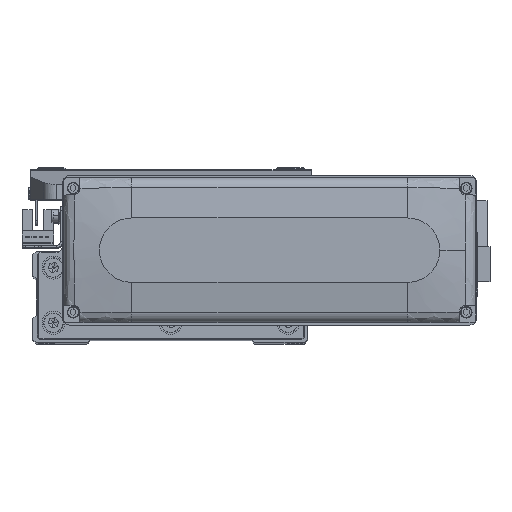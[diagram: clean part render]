
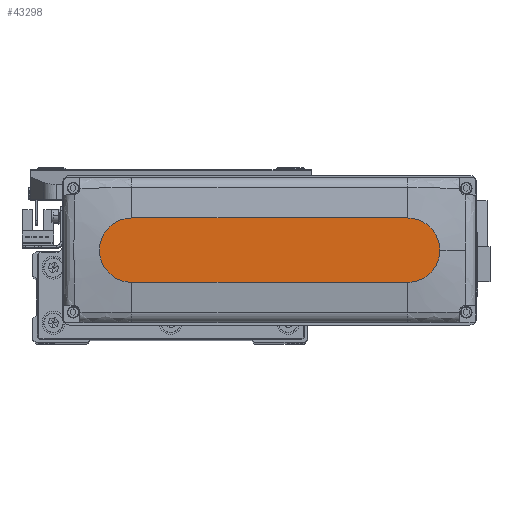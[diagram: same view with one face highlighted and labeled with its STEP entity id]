
A CAD part, top view. The second image highlights one B-rep face of the part: STEP entity #43298.
In plain terms, the highlighted planar face has unit normal (0, 0, 1).
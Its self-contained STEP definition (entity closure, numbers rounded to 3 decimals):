
#4210 = DIRECTION ( 'NONE',  ( 1., 0., 0. ) ) ;
#4587 = EDGE_CURVE ( 'NONE', #17728, #21947, #10312, .T. ) ;
#5296 = ORIENTED_EDGE ( 'NONE', *, *, #33326, .T. ) ;
#6711 = VERTEX_POINT ( 'NONE', #36758 ) ;
#7240 = VECTOR ( 'NONE', #44725, 1000. ) ;
#8039 = CIRCLE ( 'NONE', #15294, 14. ) ;
#8864 = CIRCLE ( 'NONE', #18599, 14. ) ;
#10312 = LINE ( 'NONE', #25747, #7240 ) ;
#11300 = FACE_OUTER_BOUND ( 'NONE', #27875, .T. ) ;
#11786 = VECTOR ( 'NONE', #32004, 1000. ) ;
#12262 = DIRECTION ( 'NONE',  ( 1., 0., 0. ) ) ;
#12788 = LINE ( 'NONE', #28748, #11786 ) ;
#13284 = CARTESIAN_POINT ( 'NONE',  ( -60., 0., 28.5 ) ) ;
#15294 = AXIS2_PLACEMENT_3D ( 'NONE', #37310, #33492, #37556 ) ;
#17728 = VERTEX_POINT ( 'NONE', #26867 ) ;
#18599 = AXIS2_PLACEMENT_3D ( 'NONE', #21430, #36852, #44425 ) ;
#20155 = ORIENTED_EDGE ( 'NONE', *, *, #30434, .T. ) ;
#21430 = CARTESIAN_POINT ( 'NONE',  ( 60., 0., 28.5 ) ) ;
#21947 = VERTEX_POINT ( 'NONE', #45751 ) ;
#22836 = CIRCLE ( 'NONE', #40650, 14. ) ;
#25747 = CARTESIAN_POINT ( 'NONE',  ( -60., 14., 28.5 ) ) ;
#26500 = DIRECTION ( 'NONE',  ( 0., 0., 1. ) ) ;
#26867 = CARTESIAN_POINT ( 'NONE',  ( 60., 14., 28.5 ) ) ;
#26920 = CARTESIAN_POINT ( 'NONE',  ( 74., 0., 28.5 ) ) ;
#27094 = VERTEX_POINT ( 'NONE', #26920 ) ;
#27875 = EDGE_LOOP ( 'NONE', ( #32742, #5296, #45454, #20155, #47259 ) ) ;
#28748 = CARTESIAN_POINT ( 'NONE',  ( -60., -14., 28.5 ) ) ;
#30434 = EDGE_CURVE ( 'NONE', #6711, #27094, #8039, .T. ) ;
#30780 = CARTESIAN_POINT ( 'NONE',  ( 0., 0., 28.5 ) ) ;
#31102 = AXIS2_PLACEMENT_3D ( 'NONE', #30780, #26500, #4210 ) ;
#32004 = DIRECTION ( 'NONE',  ( 1., 0., 0. ) ) ;
#32742 = ORIENTED_EDGE ( 'NONE', *, *, #4587, .T. ) ;
#33326 = EDGE_CURVE ( 'NONE', #21947, #40989, #22836, .T. ) ;
#33492 = DIRECTION ( 'NONE',  ( 0., 0., 1. ) ) ;
#36758 = CARTESIAN_POINT ( 'NONE',  ( 60., -14., 28.5 ) ) ;
#36852 = DIRECTION ( 'NONE',  ( 0., 0., 1. ) ) ;
#36955 = EDGE_CURVE ( 'NONE', #27094, #17728, #8864, .T. ) ;
#37310 = CARTESIAN_POINT ( 'NONE',  ( 60., 0., 28.5 ) ) ;
#37556 = DIRECTION ( 'NONE',  ( 1., 0., 0. ) ) ;
#39846 = DIRECTION ( 'NONE',  ( 0., 0., 1. ) ) ;
#40650 = AXIS2_PLACEMENT_3D ( 'NONE', #13284, #39846, #12262 ) ;
#40989 = VERTEX_POINT ( 'NONE', #42894 ) ;
#42894 = CARTESIAN_POINT ( 'NONE',  ( -60., -14., 28.5 ) ) ;
#43298 = ADVANCED_FACE ( 'NONE', ( #11300 ), #49967, .T. ) ;
#43472 = EDGE_CURVE ( 'NONE', #40989, #6711, #12788, .T. ) ;
#44425 = DIRECTION ( 'NONE',  ( 1., 0., 0. ) ) ;
#44725 = DIRECTION ( 'NONE',  ( -1., 0., 0. ) ) ;
#45454 = ORIENTED_EDGE ( 'NONE', *, *, #43472, .T. ) ;
#45751 = CARTESIAN_POINT ( 'NONE',  ( -60., 14., 28.5 ) ) ;
#47259 = ORIENTED_EDGE ( 'NONE', *, *, #36955, .T. ) ;
#49967 = PLANE ( 'NONE',  #31102 ) ;
